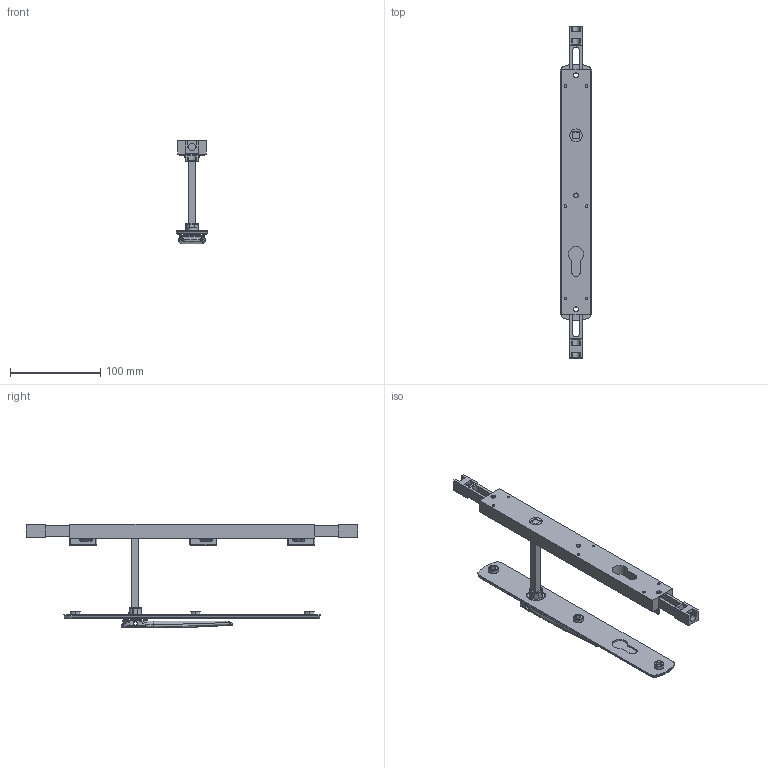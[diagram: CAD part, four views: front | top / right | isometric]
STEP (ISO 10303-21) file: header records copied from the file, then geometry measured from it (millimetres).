
FILE_DESCRIPTION (( 'STEP AP214' ), '1' );
FILE_NAME ('TPL-H-EU-602-C 30Oct2024.STEP', '2024-10-30T03:27:09', ( '' ), ( '' ), 'SwSTEP 2.0', 'SolidWorks 2023', '' );
FILE_SCHEMA (( 'AUTOMOTIVE_DESIGN' ));
Length unit declared in the file: millimetre
Products named in the file (11): Copy of TPGen2 handle non-keyed long zinc - simplified^TPL-H-EU-102 30Oct2024_Vertical; Copy of LKC-583 Escutcheon plate unkeyed 285mm long zinc - simplified^Copy of TPGen2 handle non-keyed long zinc - simplified_TPL-H-EU-102 30Oct2024; TPL-H-EU-602-C 30Oct2024; Copy of LKC-586 Spindle square 8mm with M4 hole^Copy of TPGen2 handle non-keyed long zinc - simplified_TPL-H-EU-102 30Oct2024_100mm; Copy of LKC-505 Swing handle zinc - simplified^Copy of TPGen2 handle non-keyed long zinc - simplified_TPL-H-EU-102 30Oct2024; Copy of TPLGen2 push rod - simplified^Copy of TPLGen2 lock body keyed assembly_TPL-H-EU-102 30Oct2024_Female thread M10; Copy of TPLGen2 lock body keyed^Copy of TPLGen2 lock body keyed assembly_TPL-H-EU-102 30Oct2024_Left; Copy of TPLGen2 lock body keyed assembly^TPL-H-EU-102 30Oct2024_Bolts extended - left; Copy of LKC-585 Rotator body zinc^Copy of TPGen2 handle non-keyed long zinc - simplified_TPL-H-EU-102 30Oct2024; Copy of TPL-H-APC-515 04Oct2024^TPL-H-EU-102 30Oct2024; Copy of LKC-584 Pivot body zinc - simplified^Copy of TPGen2 handle non-keyed long zinc - simplified_TPL-H-EU-102 30Oct2024
Assembly tree (13 placements, depth 3):
  TPL-H-EU-602-C 30Oct2024
    Copy of TPLGen2 lock body keyed assembly^TPL-H-EU-102 30Oct2024_Bolts extended - left
      Copy of TPLGen2 lock body keyed^Copy of TPLGen2 lock body keyed assembly_TPL-H-EU-102 30Oct2024_Left
      Copy of TPLGen2 push rod - simplified^Copy of TPLGen2 lock body keyed assembly_TPL-H-EU-102 30Oct2024_Female thread M10  x2
    Copy of TPGen2 handle non-keyed long zinc - simplified^TPL-H-EU-102 30Oct2024_Vertical
      Copy of LKC-583 Escutcheon plate unkeyed 285mm long zinc - simplified^Copy of TPGen2 handle non-keyed long zinc - simplified_TPL-H-EU-102 30Oct2024
      Copy of LKC-505 Swing handle zinc - simplified^Copy of TPGen2 handle non-keyed long zinc - simplified_TPL-H-EU-102 30Oct2024
      Copy of LKC-585 Rotator body zinc^Copy of TPGen2 handle non-keyed long zinc - simplified_TPL-H-EU-102 30Oct2024
      Copy of LKC-586 Spindle square 8mm with M4 hole^Copy of TPGen2 handle non-keyed long zinc - simplified_TPL-H-EU-102 30Oct2024_100mm
      Copy of LKC-584 Pivot body zinc - simplified^Copy of TPGen2 handle non-keyed long zinc - simplified_TPL-H-EU-102 30Oct2024
    Copy of TPL-H-APC-515 04Oct2024^TPL-H-EU-102 30Oct2024  x3
Bounding box: 35 x 368.6 x 115.21 mm (x, y, z)
Volume: 204367.4 mm3; surface area: 84360.9 mm2
Topology: 11 solids, 11 shells, 1088 faces, 2624 edges, 1584 vertices
Faces by surface type: cylinder 328, plane 326, bspline 224, torus 115, cone 66, sphere 29
Entity records: 28564 total; most frequent: CARTESIAN_POINT 12160, ORIENTED_EDGE 3540, DIRECTION 3148, EDGE_CURVE 1770, AXIS2_PLACEMENT_3D 1246, VERTEX_POINT 1068, EDGE_LOOP 832, ADVANCED_FACE 751
